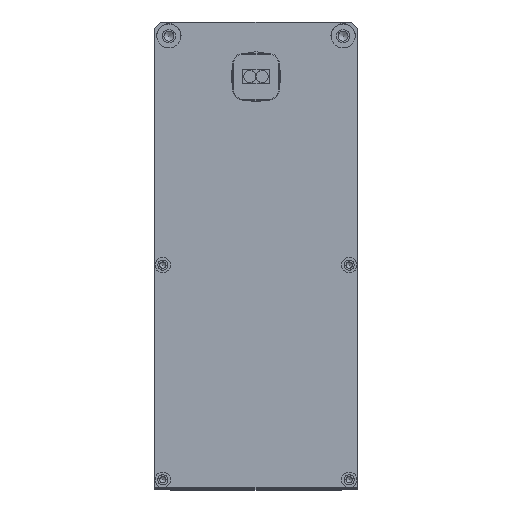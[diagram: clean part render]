
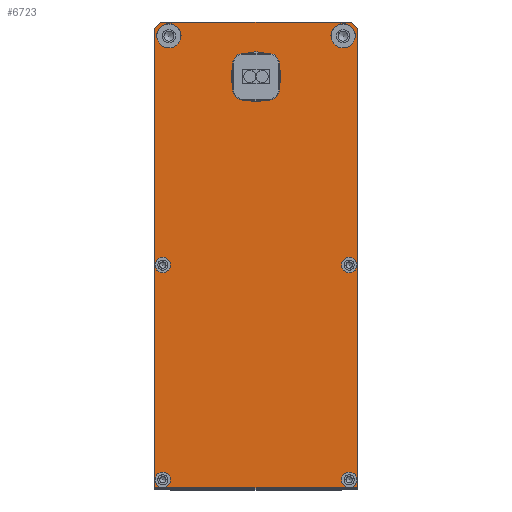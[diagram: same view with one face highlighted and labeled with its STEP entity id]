
A CAD part, top view. The second image highlights one B-rep face of the part: STEP entity #6723.
In plain terms, the highlighted planar face has unit normal (0, 0, 1).
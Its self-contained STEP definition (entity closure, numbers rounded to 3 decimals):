
#5484=CARTESIAN_POINT('',(31.15,-13.5,0.0));
#5485=VERTEX_POINT('',#5484);
#5486=CARTESIAN_POINT('',(25.0,-13.5,0.0));
#5487=DIRECTION('',(0.0,0.0,-1.0));
#5488=DIRECTION('',(-1.0,0.0,0.0));
#5489=AXIS2_PLACEMENT_3D('',#5486,#5487,#5488);
#5490=CIRCLE('',#5489,6.15);
#5491=EDGE_CURVE('',#5485,#5485,#5490,.T.);
#5743=CARTESIAN_POINT('',(48.5,0.0,0.0));
#5744=VERTEX_POINT('',#5743);
#5751=CARTESIAN_POINT('',(50.0,-1.5,0.0));
#5752=VERTEX_POINT('',#5751);
#5753=CARTESIAN_POINT('',(48.5,0.0,0.0));
#5754=DIRECTION('',(0.707,-0.707,0.0));
#5755=VECTOR('',#5754,2.121);
#5756=LINE('',#5753,#5755);
#5757=EDGE_CURVE('',#5744,#5752,#5756,.T.);
#5789=CARTESIAN_POINT('',(49.5,-3.4,0.0));
#5790=VERTEX_POINT('',#5789);
#5791=CARTESIAN_POINT('',(46.5,-3.4,0.0));
#5792=DIRECTION('',(0.0,0.0,-1.0));
#5793=DIRECTION('',(1.0,0.0,0.0));
#5794=AXIS2_PLACEMENT_3D('',#5791,#5792,#5793);
#5795=CIRCLE('',#5794,3.);
#5796=EDGE_CURVE('',#5790,#5790,#5795,.T.);
#5810=CARTESIAN_POINT('',(6.5,-3.4,0.0));
#5811=VERTEX_POINT('',#5810);
#5812=CARTESIAN_POINT('',(3.5,-3.4,0.0));
#5813=DIRECTION('',(0.0,0.0,-1.0));
#5814=DIRECTION('',(1.0,0.0,0.0));
#5815=AXIS2_PLACEMENT_3D('',#5812,#5813,#5814);
#5816=CIRCLE('',#5815,3.);
#5817=EDGE_CURVE('',#5811,#5811,#5816,.T.);
#6218=CARTESIAN_POINT('',(0.,-1.5,0.0));
#6219=VERTEX_POINT('',#6218);
#6226=CARTESIAN_POINT('',(1.5,0.0,0.0));
#6227=VERTEX_POINT('',#6226);
#6228=CARTESIAN_POINT('',(0.,-1.5,0.0));
#6229=DIRECTION('',(0.707,0.707,0.0));
#6230=VECTOR('',#6229,2.121);
#6231=LINE('',#6228,#6230);
#6232=EDGE_CURVE('',#6219,#6227,#6231,.T.);
#6295=CARTESIAN_POINT('',(1.5,0.0,0.0));
#6296=DIRECTION('',(1.0,0.0,0.0));
#6297=VECTOR('',#6296,47.0);
#6298=LINE('',#6295,#6297);
#6299=EDGE_CURVE('',#6227,#5744,#6298,.T.);
#6338=CARTESIAN_POINT('',(49.9,-60.,0.0));
#6339=VERTEX_POINT('',#6338);
#6340=CARTESIAN_POINT('',(48.,-60.,0.0));
#6341=DIRECTION('',(0.0,0.0,-1.0));
#6342=DIRECTION('',(1.0,0.0,0.0));
#6343=AXIS2_PLACEMENT_3D('',#6340,#6341,#6342);
#6344=CIRCLE('',#6343,1.9);
#6345=EDGE_CURVE('',#6339,#6339,#6344,.T.);
#6406=CARTESIAN_POINT('',(49.9,-113.0,0.0));
#6407=VERTEX_POINT('',#6406);
#6408=CARTESIAN_POINT('',(48.,-113.0,0.0));
#6409=DIRECTION('',(0.0,0.0,-1.0));
#6410=DIRECTION('',(1.0,0.0,0.0));
#6411=AXIS2_PLACEMENT_3D('',#6408,#6409,#6410);
#6412=CIRCLE('',#6411,1.9);
#6413=EDGE_CURVE('',#6407,#6407,#6412,.T.);
#6474=CARTESIAN_POINT('',(3.9,-60.,0.0));
#6475=VERTEX_POINT('',#6474);
#6476=CARTESIAN_POINT('',(2.,-60.,0.0));
#6477=DIRECTION('',(0.0,0.0,-1.0));
#6478=DIRECTION('',(1.0,0.0,0.0));
#6479=AXIS2_PLACEMENT_3D('',#6476,#6477,#6478);
#6480=CIRCLE('',#6479,1.9);
#6481=EDGE_CURVE('',#6475,#6475,#6480,.T.);
#6542=CARTESIAN_POINT('',(3.9,-113.0,0.0));
#6543=VERTEX_POINT('',#6542);
#6544=CARTESIAN_POINT('',(2.,-113.0,0.0));
#6545=DIRECTION('',(0.0,0.0,-1.0));
#6546=DIRECTION('',(1.0,0.0,0.0));
#6547=AXIS2_PLACEMENT_3D('',#6544,#6545,#6546);
#6548=CIRCLE('',#6547,1.9);
#6549=EDGE_CURVE('',#6543,#6543,#6548,.T.);
#6629=CARTESIAN_POINT('',(0.,-115.0,0.0));
#6630=VERTEX_POINT('',#6629);
#6637=CARTESIAN_POINT('',(0.,-115.0,0.0));
#6638=DIRECTION('',(0.0,1.0,0.0));
#6639=VECTOR('',#6638,113.5);
#6640=LINE('',#6637,#6639);
#6641=EDGE_CURVE('',#6630,#6219,#6640,.T.);
#6652=CARTESIAN_POINT('',(50.0,-115.0,0.0));
#6653=VERTEX_POINT('',#6652);
#6660=CARTESIAN_POINT('',(50.0,-115.0,0.0));
#6661=DIRECTION('',(-1.0,0.0,0.0));
#6662=VECTOR('',#6661,50.);
#6663=LINE('',#6660,#6662);
#6664=EDGE_CURVE('',#6653,#6630,#6663,.T.);
#6676=CARTESIAN_POINT('',(50.0,-1.5,0.0));
#6677=DIRECTION('',(0.0,-1.0,0.0));
#6678=VECTOR('',#6677,113.5);
#6679=LINE('',#6676,#6678);
#6680=EDGE_CURVE('',#5752,#6653,#6679,.T.);
#6689=CARTESIAN_POINT('',(25.0,-57.5,0.0));
#6690=DIRECTION('',(0.0,0.0,1.0));
#6691=DIRECTION('',(1.0,0.0,0.0));
#6692=AXIS2_PLACEMENT_3D('',#6689,#6690,#6691);
#6693=PLANE('',#6692);
#6694=ORIENTED_EDGE('',*,*,#6232,.F.);
#6695=ORIENTED_EDGE('',*,*,#6641,.F.);
#6696=ORIENTED_EDGE('',*,*,#6664,.F.);
#6697=ORIENTED_EDGE('',*,*,#6680,.F.);
#6698=ORIENTED_EDGE('',*,*,#5757,.F.);
#6699=ORIENTED_EDGE('',*,*,#6299,.F.);
#6700=EDGE_LOOP('',(#6694,#6695,#6696,#6697,#6698,#6699));
#6701=FACE_OUTER_BOUND('',#6700,.T.);
#6702=ORIENTED_EDGE('',*,*,#5491,.T.);
#6703=EDGE_LOOP('',(#6702));
#6704=FACE_BOUND('',#6703,.T.);
#6705=ORIENTED_EDGE('',*,*,#5796,.T.);
#6706=EDGE_LOOP('',(#6705));
#6707=FACE_BOUND('',#6706,.T.);
#6708=ORIENTED_EDGE('',*,*,#5817,.T.);
#6709=EDGE_LOOP('',(#6708));
#6710=FACE_BOUND('',#6709,.T.);
#6711=ORIENTED_EDGE('',*,*,#6345,.T.);
#6712=EDGE_LOOP('',(#6711));
#6713=FACE_BOUND('',#6712,.T.);
#6714=ORIENTED_EDGE('',*,*,#6413,.T.);
#6715=EDGE_LOOP('',(#6714));
#6716=FACE_BOUND('',#6715,.T.);
#6717=ORIENTED_EDGE('',*,*,#6481,.T.);
#6718=EDGE_LOOP('',(#6717));
#6719=FACE_BOUND('',#6718,.T.);
#6720=ORIENTED_EDGE('',*,*,#6549,.T.);
#6721=EDGE_LOOP('',(#6720));
#6722=FACE_BOUND('',#6721,.T.);
#6723=ADVANCED_FACE('',(#6701,#6704,#6707,#6710,#6713,#6716,#6719,#6722),#6693,.T.);
